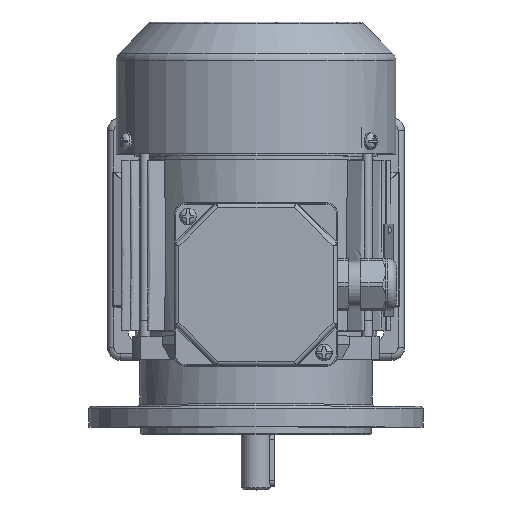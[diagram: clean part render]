
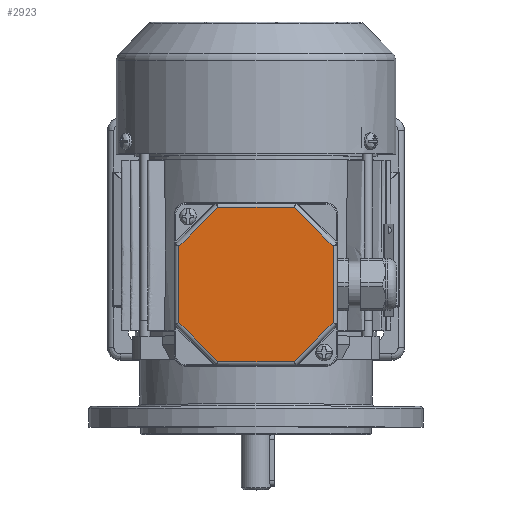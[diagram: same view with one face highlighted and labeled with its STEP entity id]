
A CAD part, top view. The second image highlights one B-rep face of the part: STEP entity #2923.
In plain terms, the highlighted planar face has unit normal (0, 0, 1).
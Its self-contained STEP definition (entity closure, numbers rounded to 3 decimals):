
#2923 = ADVANCED_FACE( '', ( #6151 ), #6152, .T. );
#6151 = FACE_OUTER_BOUND( '', #15607, .T. );
#6152 = PLANE( '', #15608 );
#15607 = EDGE_LOOP( '', ( #29197, #29198, #29199, #29200, #29201, #29202, #29203, #29204 ) );
#15608 = AXIS2_PLACEMENT_3D( '', #29205, #29206, #29207 );
#29197 = ORIENTED_EDGE( '', *, *, #38644, .T. );
#29198 = ORIENTED_EDGE( '', *, *, #39140, .T. );
#29199 = ORIENTED_EDGE( '', *, *, #39141, .T. );
#29200 = ORIENTED_EDGE( '', *, *, #38550, .T. );
#29201 = ORIENTED_EDGE( '', *, *, #39142, .T. );
#29202 = ORIENTED_EDGE( '', *, *, #38185, .T. );
#29203 = ORIENTED_EDGE( '', *, *, #39143, .T. );
#29204 = ORIENTED_EDGE( '', *, *, #37378, .T. );
#29205 = CARTESIAN_POINT( '', ( -39., 39., 12. ) );
#29206 = DIRECTION( '', ( 0., 0., 1. ) );
#29207 = DIRECTION( '', ( 1., 0., 0. ) );
#37378 = EDGE_CURVE( '', #47517, #47676, #47678, .T. );
#38185 = EDGE_CURVE( '', #49008, #49009, #49010, .T. );
#38550 = EDGE_CURVE( '', #49558, #49559, #49560, .T. );
#38644 = EDGE_CURVE( '', #47676, #49016, #49689, .F. );
#39140 = EDGE_CURVE( '', #49016, #50426, #50427, .T. );
#39141 = EDGE_CURVE( '', #50426, #49558, #50428, .F. );
#39142 = EDGE_CURVE( '', #49559, #49008, #50429, .F. );
#39143 = EDGE_CURVE( '', #49009, #47517, #50430, .F. );
#47517 = VERTEX_POINT( '', #56977 );
#47676 = VERTEX_POINT( '', #57261 );
#47678 = LINE( '', #57263, #57264 );
#49008 = VERTEX_POINT( '', #60207 );
#49009 = VERTEX_POINT( '', #60208 );
#49010 = LINE( '', #60209, #60210 );
#49016 = VERTEX_POINT( '', #60217 );
#49558 = VERTEX_POINT( '', #61618 );
#49559 = VERTEX_POINT( '', #61619 );
#49560 = LINE( '', #61620, #61621 );
#49689 = LINE( '', #61818, #61819 );
#50426 = VERTEX_POINT( '', #63591 );
#50427 = LINE( '', #63592, #63593 );
#50428 = LINE( '', #63594, #63595 );
#50429 = LINE( '', #63596, #63597 );
#50430 = LINE( '', #63598, #63599 );
#56977 = CARTESIAN_POINT( '', ( 18.255, -36.825, 12. ) );
#57261 = CARTESIAN_POINT( '', ( 36.825, -18.255, 12. ) );
#57263 = CARTESIAN_POINT( '', ( 37.401, -17.679, 12. ) );
#57264 = VECTOR( '', #72444, 1000. );
#60207 = CARTESIAN_POINT( '', ( -36.825, -18.255, 12. ) );
#60208 = CARTESIAN_POINT( '', ( -18.255, -36.825, 12. ) );
#60209 = CARTESIAN_POINT( '', ( -17.679, -37.401, 12. ) );
#60210 = VECTOR( '', #73426, 1000. );
#60217 = CARTESIAN_POINT( '', ( 36.825, 18.255, 12. ) );
#61618 = CARTESIAN_POINT( '', ( -18.255, 36.825, 12. ) );
#61619 = CARTESIAN_POINT( '', ( -36.825, 18.255, 12. ) );
#61620 = CARTESIAN_POINT( '', ( -37.401, 17.679, 12. ) );
#61621 = VECTOR( '', #73830, 1000. );
#61818 = CARTESIAN_POINT( '', ( 36.825, 19.069, 12. ) );
#61819 = VECTOR( '', #73944, 1000. );
#63591 = CARTESIAN_POINT( '', ( 18.255, 36.825, 12. ) );
#63592 = CARTESIAN_POINT( '', ( 17.679, 37.401, 12. ) );
#63593 = VECTOR( '', #74485, 1000. );
#63594 = CARTESIAN_POINT( '', ( -19.069, 36.825, 12. ) );
#63595 = VECTOR( '', #74486, 1000. );
#63596 = CARTESIAN_POINT( '', ( -36.825, -19.069, 12. ) );
#63597 = VECTOR( '', #74487, 1000. );
#63598 = CARTESIAN_POINT( '', ( 19.069, -36.825, 12. ) );
#63599 = VECTOR( '', #74488, 1000. );
#72444 = DIRECTION( '', ( 0.707, 0.707, 0. ) );
#73426 = DIRECTION( '', ( 0.707, -0.707, 0. ) );
#73830 = DIRECTION( '', ( -0.707, -0.707, 0. ) );
#73944 = DIRECTION( '', ( 0., -1., 0. ) );
#74485 = DIRECTION( '', ( -0.707, 0.707, 0. ) );
#74486 = DIRECTION( '', ( 1., 0., 0. ) );
#74487 = DIRECTION( '', ( 0., 1., 0. ) );
#74488 = DIRECTION( '', ( -1., 0., 0. ) );
